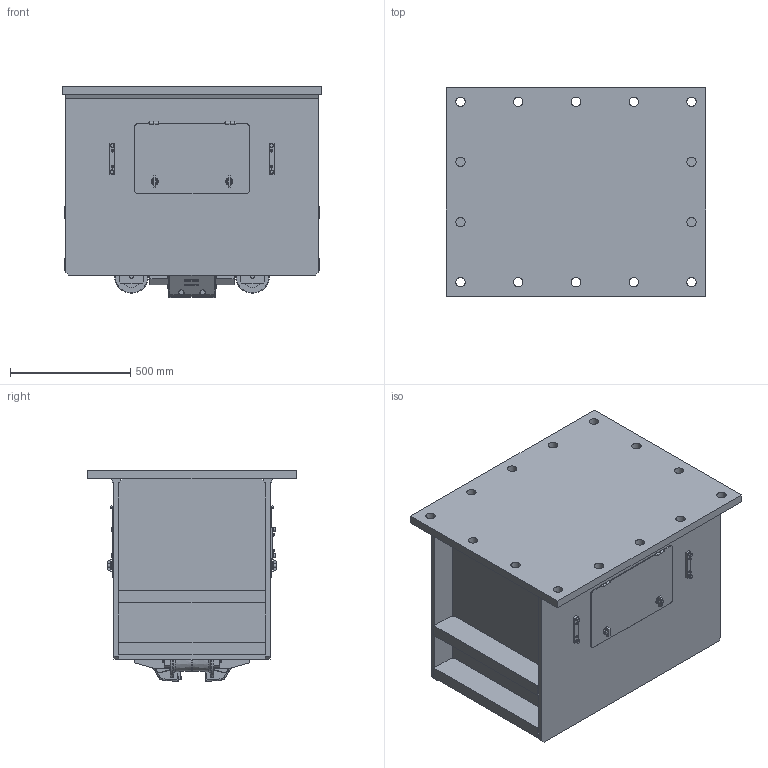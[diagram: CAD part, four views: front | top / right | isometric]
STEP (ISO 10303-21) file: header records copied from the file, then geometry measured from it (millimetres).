
FILE_DESCRIPTION(/* description */ (''),/* implementation_level */ '2;1');
FILE_NAME(/* name */ 'K:\NEMANJA\0700-2\07002001 CXHV-LH\STEP\77834.stp',/* time_stamp */ '2017-03-16T11:18:01+01:00',/* author */ ('nemgal01'),/* organization */ (''),/* preprocessor_version */ 'ST-DEVELOPER v16.1',/* originating_system */ 'Autodesk Inventor 2016',/* authorisation */ '');
FILE_SCHEMA (('AUTOMOTIVE_DESIGN { 1 0 10303 214 3 1 1 }'));
Products named in the file (1): 77834
Bounding box: 1080 x 865 x 877.27 mm (x, y, z)
Volume: 164269111.9 mm3; surface area: 11425604.2 mm2
Topology: 6 solids, 6 shells, 3901 faces, 10277 edges, 6459 vertices
Faces by surface type: plane 1928, cylinder 824, bspline 647, cone 214, sphere 174, torus 114
Full cylindrical faces by diameter (mm): 3 x2, 5.5 x4, 9.188 x4, 10 x4, 10.109 x4, 11.053 x1, 12 x3, 15.4 x4, 16 x4, 17.2 x1, 18 x4, 20 x6, 20.4 x1, 21.031 x4, 22.4 x4, 23.98 x1, 24 x2, 25 x4, 30 x4, 39 x14, 76.2 x4, 90 x4, 140 x4, 150 x2
Entity records: 140375 total; most frequent: CARTESIAN_POINT 45349, ORIENTED_EDGE 19912, DIRECTION 17419, EDGE_CURVE 9956, VERTEX_POINT 6385, AXIS2_PLACEMENT_3D 6001, LINE 5417, VECTOR 5417
